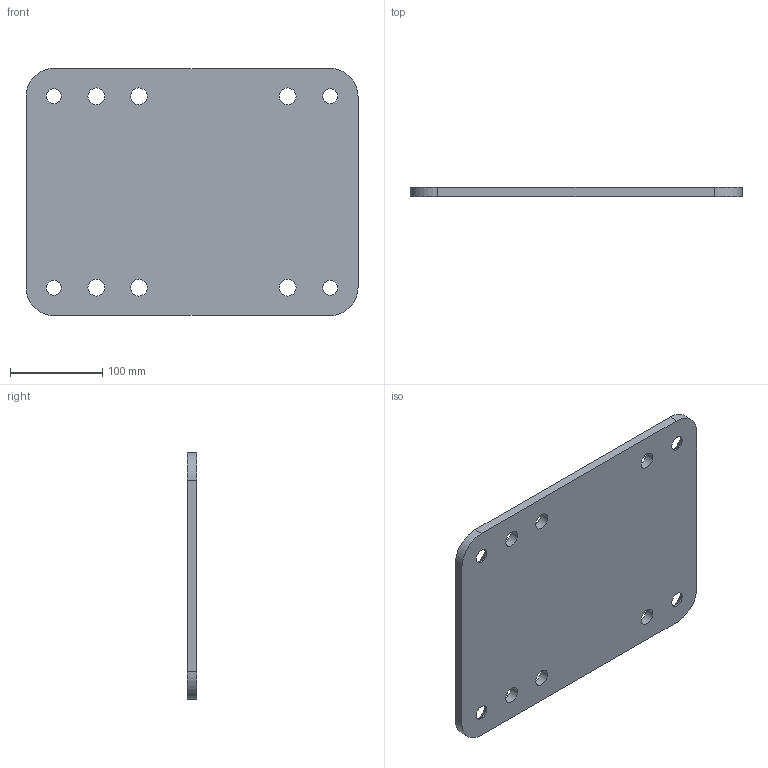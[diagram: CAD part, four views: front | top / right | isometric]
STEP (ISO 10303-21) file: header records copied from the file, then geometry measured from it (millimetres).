
FILE_DESCRIPTION(/* description */ (''),/* implementation_level */ '2;1');
FILE_NAME(/* name */ 'M:\Symbolen_NIEUW\STP\36-er truss\S36R\ACC-A-36R-V_260010223.stp',/* time_stamp */ '2017-11-10T13:00:26+01:00',/* author */ ('Kees'),/* organization */ (''),/* preprocessor_version */ 'ST-DEVELOPER v16.13',/* originating_system */ 'Autodesk Inventor 2018',/* authorisation */ '');
FILE_SCHEMA (('AUTOMOTIVE_DESIGN { 1 0 10303 214 3 1 1 }'));
Length unit declared in the file: millimetre
Products named in the file (1): 260010223
Bounding box: 359 x 10 x 267 mm (x, y, z)
Volume: 918424.4 mm3; surface area: 202291.4 mm2
Topology: 1 solids, 1 shells, 24 faces, 72 edges, 50 vertices
Faces by surface type: cylinder 14, plane 6, cone 4
Full cylindrical faces by diameter (mm): 16 x4, 18 x6
Entity records: 755 total; most frequent: DIRECTION 130, CARTESIAN_POINT 113, ORIENTED_EDGE 96, EDGE_LOOP 58, AXIS2_PLACEMENT_3D 57, EDGE_CURVE 48, VERTEX_POINT 40, FACE_BOUND 34
